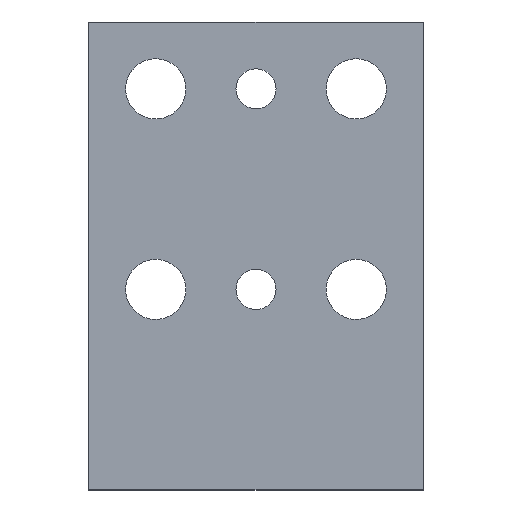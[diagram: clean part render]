
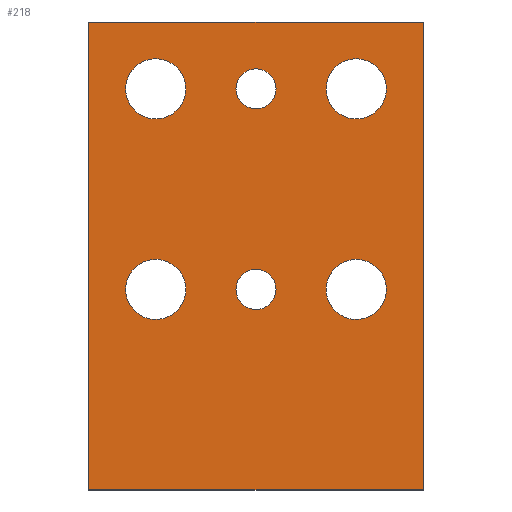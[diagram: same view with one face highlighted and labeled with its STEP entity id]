
A CAD part, front view. The second image highlights one B-rep face of the part: STEP entity #218.
In plain terms, the highlighted planar face has unit normal (0, -1, 0).
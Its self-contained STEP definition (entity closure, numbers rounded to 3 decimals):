
#218=ADVANCED_FACE('Pad.1',(#492,#493,#494,#495,#496,#497,#498),#499,.F.);
#492=FACE_OUTER_BOUND('',#819,.T.);
#493=FACE_BOUND('',#820,.T.);
#494=FACE_BOUND('',#821,.T.);
#495=FACE_BOUND('',#822,.T.);
#496=FACE_BOUND('',#823,.T.);
#497=FACE_BOUND('',#824,.T.);
#498=FACE_BOUND('',#825,.T.);
#499=PLANE('',#826);
#819=EDGE_LOOP('',(#1464,#1465,#1466,#1467));
#820=EDGE_LOOP('',(#1468,#1469,#1470,#1471));
#821=EDGE_LOOP('',(#1472,#1473,#1474,#1475));
#822=EDGE_LOOP('',(#1476,#1477,#1478,#1479));
#823=EDGE_LOOP('',(#1480,#1481,#1482,#1483));
#824=EDGE_LOOP('',(#1484,#1485,#1486,#1487));
#825=EDGE_LOOP('',(#1488,#1489,#1490,#1491));
#826=AXIS2_PLACEMENT_3D('',#1492,#1493,#1494);
#1464=ORIENTED_EDGE('',*,*,#2172,.F.);
#1465=ORIENTED_EDGE('',*,*,#2134,.T.);
#1466=ORIENTED_EDGE('',*,*,#2138,.T.);
#1467=ORIENTED_EDGE('',*,*,#2109,.F.);
#1468=ORIENTED_EDGE('',*,*,#2080,.T.);
#1469=ORIENTED_EDGE('',*,*,#2174,.T.);
#1470=ORIENTED_EDGE('',*,*,#2175,.T.);
#1471=ORIENTED_EDGE('',*,*,#2077,.T.);
#1472=ORIENTED_EDGE('',*,*,#2009,.T.);
#1473=ORIENTED_EDGE('',*,*,#2176,.T.);
#1474=ORIENTED_EDGE('',*,*,#2177,.T.);
#1475=ORIENTED_EDGE('',*,*,#2006,.T.);
#1476=ORIENTED_EDGE('',*,*,#2089,.T.);
#1477=ORIENTED_EDGE('',*,*,#2178,.T.);
#1478=ORIENTED_EDGE('',*,*,#2179,.T.);
#1479=ORIENTED_EDGE('',*,*,#2086,.T.);
#1480=ORIENTED_EDGE('',*,*,#2049,.T.);
#1481=ORIENTED_EDGE('',*,*,#2180,.T.);
#1482=ORIENTED_EDGE('',*,*,#2181,.T.);
#1483=ORIENTED_EDGE('',*,*,#2046,.T.);
#1484=ORIENTED_EDGE('',*,*,#2067,.T.);
#1485=ORIENTED_EDGE('',*,*,#2182,.T.);
#1486=ORIENTED_EDGE('',*,*,#2183,.T.);
#1487=ORIENTED_EDGE('',*,*,#2064,.T.);
#1488=ORIENTED_EDGE('',*,*,#2018,.T.);
#1489=ORIENTED_EDGE('',*,*,#2184,.T.);
#1490=ORIENTED_EDGE('',*,*,#2185,.T.);
#1491=ORIENTED_EDGE('',*,*,#2015,.T.);
#1492=CARTESIAN_POINT('',(0.0,0.0,0.0));
#1493=DIRECTION('',(0.0,1.0,0.0));
#1494=DIRECTION('',(0.0,0.0,1.0));
#2006=EDGE_CURVE('',#2435,#2439,#2441,.T.);
#2009=EDGE_CURVE('',#2439,#2443,#2446,.T.);
#2015=EDGE_CURVE('',#2450,#2454,#2456,.T.);
#2018=EDGE_CURVE('',#2454,#2458,#2461,.T.);
#2046=EDGE_CURVE('',#2501,#2505,#2507,.T.);
#2049=EDGE_CURVE('',#2505,#2509,#2512,.T.);
#2064=EDGE_CURVE('',#2531,#2535,#2537,.T.);
#2067=EDGE_CURVE('',#2535,#2539,#2542,.T.);
#2077=EDGE_CURVE('',#2552,#2556,#2558,.T.);
#2080=EDGE_CURVE('',#2556,#2560,#2563,.T.);
#2086=EDGE_CURVE('',#2567,#2571,#2573,.T.);
#2089=EDGE_CURVE('',#2571,#2575,#2578,.T.);
#2109=EDGE_CURVE('',#2610,#2612,#2613,.F.);
#2134=EDGE_CURVE('',#2651,#2649,#2652,.F.);
#2138=EDGE_CURVE('',#2649,#2612,#2657,.T.);
#2172=EDGE_CURVE('',#2651,#2610,#2703,.T.);
#2174=EDGE_CURVE('',#2560,#2705,#2706,.T.);
#2175=EDGE_CURVE('',#2705,#2552,#2707,.T.);
#2176=EDGE_CURVE('',#2443,#2708,#2709,.T.);
#2177=EDGE_CURVE('',#2708,#2435,#2710,.T.);
#2178=EDGE_CURVE('',#2575,#2711,#2712,.T.);
#2179=EDGE_CURVE('',#2711,#2567,#2713,.T.);
#2180=EDGE_CURVE('',#2509,#2714,#2715,.T.);
#2181=EDGE_CURVE('',#2714,#2501,#2716,.T.);
#2182=EDGE_CURVE('',#2539,#2717,#2718,.T.);
#2183=EDGE_CURVE('',#2717,#2531,#2719,.T.);
#2184=EDGE_CURVE('',#2458,#2720,#2721,.T.);
#2185=EDGE_CURVE('',#2720,#2450,#2722,.T.);
#2435=VERTEX_POINT('',#3056);
#2439=VERTEX_POINT('',#3061);
#2441=CIRCLE('',#3064,3.0);
#2443=VERTEX_POINT('',#3066);
#2446=CIRCLE('',#3070,3.0);
#2450=VERTEX_POINT('',#3074);
#2454=VERTEX_POINT('',#3079);
#2456=CIRCLE('',#3082,4.5);
#2458=VERTEX_POINT('',#3084);
#2461=CIRCLE('',#3088,4.5);
#2501=VERTEX_POINT('',#3135);
#2505=VERTEX_POINT('',#3140);
#2507=CIRCLE('',#3143,4.5);
#2509=VERTEX_POINT('',#3145);
#2512=CIRCLE('',#3149,4.5);
#2531=VERTEX_POINT('',#3171);
#2535=VERTEX_POINT('',#3176);
#2537=CIRCLE('',#3179,4.5);
#2539=VERTEX_POINT('',#3181);
#2542=CIRCLE('',#3185,4.5);
#2552=VERTEX_POINT('',#3196);
#2556=VERTEX_POINT('',#3201);
#2558=CIRCLE('',#3204,3.0);
#2560=VERTEX_POINT('',#3206);
#2563=CIRCLE('',#3210,3.0);
#2567=VERTEX_POINT('',#3214);
#2571=VERTEX_POINT('',#3219);
#2573=CIRCLE('',#3222,4.5);
#2575=VERTEX_POINT('',#3224);
#2578=CIRCLE('',#3228,4.5);
#2610=VERTEX_POINT('',#3268);
#2612=VERTEX_POINT('',#3271);
#2613=LINE('',#3272,#3273);
#2649=VERTEX_POINT('',#3315);
#2651=VERTEX_POINT('',#3318);
#2652=LINE('',#3319,#3320);
#2657=LINE('',#3327,#3328);
#2703=LINE('',#3418,#3419);
#2705=VERTEX_POINT('',#3421);
#2706=CIRCLE('',#3422,3.0);
#2707=CIRCLE('',#3423,3.0);
#2708=VERTEX_POINT('',#3424);
#2709=CIRCLE('',#3425,3.0);
#2710=CIRCLE('',#3426,3.0);
#2711=VERTEX_POINT('',#3427);
#2712=CIRCLE('',#3428,4.5);
#2713=CIRCLE('',#3429,4.5);
#2714=VERTEX_POINT('',#3430);
#2715=CIRCLE('',#3431,4.5);
#2716=CIRCLE('',#3432,4.5);
#2717=VERTEX_POINT('',#3433);
#2718=CIRCLE('',#3434,4.5);
#2719=CIRCLE('',#3435,4.5);
#2720=VERTEX_POINT('',#3436);
#2721=CIRCLE('',#3437,4.5);
#2722=CIRCLE('',#3438,4.5);
#3056=CARTESIAN_POINT('',(3.0,0.0,30.0));
#3061=CARTESIAN_POINT('',(-2.633,0.0,28.562));
#3064=AXIS2_PLACEMENT_3D('',#3723,#3724,#3725);
#3066=CARTESIAN_POINT('',(-3.0,0.0,30.0));
#3070=AXIS2_PLACEMENT_3D('',#3727,#3728,#3729);
#3074=CARTESIAN_POINT('',(-10.5,0.0,30.0));
#3079=CARTESIAN_POINT('',(-18.949,0.0,27.843));
#3082=AXIS2_PLACEMENT_3D('',#3738,#3739,#3740);
#3084=CARTESIAN_POINT('',(-19.5,0.0,30.0));
#3088=AXIS2_PLACEMENT_3D('',#3742,#3743,#3744);
#3135=CARTESIAN_POINT('',(-10.5,0.0,60.0));
#3140=CARTESIAN_POINT('',(-18.949,0.0,57.843));
#3143=AXIS2_PLACEMENT_3D('',#3790,#3791,#3792);
#3145=CARTESIAN_POINT('',(-19.5,0.0,60.0));
#3149=AXIS2_PLACEMENT_3D('',#3794,#3795,#3796);
#3171=CARTESIAN_POINT('',(19.5,0.0,30.0));
#3176=CARTESIAN_POINT('',(11.051,0.0,27.843));
#3179=AXIS2_PLACEMENT_3D('',#3820,#3821,#3822);
#3181=CARTESIAN_POINT('',(10.5,0.0,30.0));
#3185=AXIS2_PLACEMENT_3D('',#3824,#3825,#3826);
#3196=CARTESIAN_POINT('',(3.0,0.0,60.0));
#3201=CARTESIAN_POINT('',(-2.633,0.0,58.562));
#3204=AXIS2_PLACEMENT_3D('',#3842,#3843,#3844);
#3206=CARTESIAN_POINT('',(-3.0,0.0,60.0));
#3210=AXIS2_PLACEMENT_3D('',#3846,#3847,#3848);
#3214=CARTESIAN_POINT('',(19.5,0.0,60.0));
#3219=CARTESIAN_POINT('',(11.051,0.0,57.843));
#3222=AXIS2_PLACEMENT_3D('',#3857,#3858,#3859);
#3224=CARTESIAN_POINT('',(10.5,0.0,60.0));
#3228=AXIS2_PLACEMENT_3D('',#3861,#3862,#3863);
#3268=CARTESIAN_POINT('',(25.0,0.,70.0));
#3271=CARTESIAN_POINT('',(25.0,0.0,0.0));
#3272=CARTESIAN_POINT('',(25.0,0.0,35.0));
#3273=VECTOR('',#3891,1.0);
#3315=CARTESIAN_POINT('',(-25.0,0.0,0.0));
#3318=CARTESIAN_POINT('',(-25.0,0.,70.0));
#3319=CARTESIAN_POINT('',(-25.0,0.0,35.0));
#3320=VECTOR('',#3944,1.0);
#3327=CARTESIAN_POINT('',(0.0,0.0,0.0));
#3328=VECTOR('',#3947,1.0);
#3418=CARTESIAN_POINT('',(0.0,0.,70.0));
#3419=VECTOR('',#4024,1.0);
#3421=CARTESIAN_POINT('',(2.633,0.0,61.438));
#3422=AXIS2_PLACEMENT_3D('',#4025,#4026,#4027);
#3423=AXIS2_PLACEMENT_3D('',#4028,#4029,#4030);
#3424=CARTESIAN_POINT('',(2.633,0.0,31.438));
#3425=AXIS2_PLACEMENT_3D('',#4031,#4032,#4033);
#3426=AXIS2_PLACEMENT_3D('',#4034,#4035,#4036);
#3427=CARTESIAN_POINT('',(18.949,0.0,62.157));
#3428=AXIS2_PLACEMENT_3D('',#4037,#4038,#4039);
#3429=AXIS2_PLACEMENT_3D('',#4040,#4041,#4042);
#3430=CARTESIAN_POINT('',(-11.051,0.0,62.157));
#3431=AXIS2_PLACEMENT_3D('',#4043,#4044,#4045);
#3432=AXIS2_PLACEMENT_3D('',#4046,#4047,#4048);
#3433=CARTESIAN_POINT('',(18.949,0.0,32.157));
#3434=AXIS2_PLACEMENT_3D('',#4049,#4050,#4051);
#3435=AXIS2_PLACEMENT_3D('',#4052,#4053,#4054);
#3436=CARTESIAN_POINT('',(-11.051,0.0,32.157));
#3437=AXIS2_PLACEMENT_3D('',#4055,#4056,#4057);
#3438=AXIS2_PLACEMENT_3D('',#4058,#4059,#4060);
#3723=CARTESIAN_POINT('',(0.,0.0,30.0));
#3724=DIRECTION('',(0.0,1.0,0.0));
#3725=DIRECTION('',(0.0,0.0,1.0));
#3727=CARTESIAN_POINT('',(0.,0.0,30.0));
#3728=DIRECTION('',(0.0,1.0,0.0));
#3729=DIRECTION('',(0.0,0.0,1.0));
#3738=CARTESIAN_POINT('',(-15.0,0.0,30.0));
#3739=DIRECTION('',(0.0,1.0,0.0));
#3740=DIRECTION('',(0.0,0.0,1.0));
#3742=CARTESIAN_POINT('',(-15.0,0.0,30.0));
#3743=DIRECTION('',(0.0,1.0,0.0));
#3744=DIRECTION('',(0.0,0.0,1.0));
#3790=CARTESIAN_POINT('',(-15.0,0.0,60.0));
#3791=DIRECTION('',(0.0,1.0,0.0));
#3792=DIRECTION('',(0.0,0.0,1.0));
#3794=CARTESIAN_POINT('',(-15.0,0.0,60.0));
#3795=DIRECTION('',(0.0,1.0,0.0));
#3796=DIRECTION('',(0.0,0.0,1.0));
#3820=CARTESIAN_POINT('',(15.0,0.0,30.0));
#3821=DIRECTION('',(0.0,1.0,0.0));
#3822=DIRECTION('',(0.0,0.0,1.0));
#3824=CARTESIAN_POINT('',(15.0,0.0,30.0));
#3825=DIRECTION('',(0.0,1.0,0.0));
#3826=DIRECTION('',(0.0,0.0,1.0));
#3842=CARTESIAN_POINT('',(0.,0.0,60.0));
#3843=DIRECTION('',(0.0,1.0,0.0));
#3844=DIRECTION('',(0.0,0.0,1.0));
#3846=CARTESIAN_POINT('',(0.,0.0,60.0));
#3847=DIRECTION('',(0.0,1.0,0.0));
#3848=DIRECTION('',(0.0,0.0,1.0));
#3857=CARTESIAN_POINT('',(15.0,0.0,60.0));
#3858=DIRECTION('',(0.0,1.0,0.0));
#3859=DIRECTION('',(0.0,0.0,1.0));
#3861=CARTESIAN_POINT('',(15.0,0.0,60.0));
#3862=DIRECTION('',(0.0,1.0,0.0));
#3863=DIRECTION('',(0.0,0.0,1.0));
#3891=DIRECTION('',(0.0,0.0,1.0));
#3944=DIRECTION('',(0.0,0.0,1.0));
#3947=DIRECTION('',(1.0,0.0,0.0));
#4024=DIRECTION('',(1.0,0.0,0.0));
#4025=CARTESIAN_POINT('',(0.,0.0,60.0));
#4026=DIRECTION('',(0.0,1.0,0.0));
#4027=DIRECTION('',(0.0,0.0,1.0));
#4028=CARTESIAN_POINT('',(0.,0.0,60.0));
#4029=DIRECTION('',(0.0,1.0,0.0));
#4030=DIRECTION('',(0.0,0.0,1.0));
#4031=CARTESIAN_POINT('',(0.,0.0,30.0));
#4032=DIRECTION('',(0.0,1.0,0.0));
#4033=DIRECTION('',(0.0,0.0,1.0));
#4034=CARTESIAN_POINT('',(0.,0.0,30.0));
#4035=DIRECTION('',(0.0,1.0,0.0));
#4036=DIRECTION('',(0.0,0.0,1.0));
#4037=CARTESIAN_POINT('',(15.0,0.0,60.0));
#4038=DIRECTION('',(0.0,1.0,0.0));
#4039=DIRECTION('',(0.0,0.0,1.0));
#4040=CARTESIAN_POINT('',(15.0,0.0,60.0));
#4041=DIRECTION('',(0.0,1.0,0.0));
#4042=DIRECTION('',(0.0,0.0,1.0));
#4043=CARTESIAN_POINT('',(-15.0,0.0,60.0));
#4044=DIRECTION('',(0.0,1.0,0.0));
#4045=DIRECTION('',(0.0,0.0,1.0));
#4046=CARTESIAN_POINT('',(-15.0,0.0,60.0));
#4047=DIRECTION('',(0.0,1.0,0.0));
#4048=DIRECTION('',(0.0,0.0,1.0));
#4049=CARTESIAN_POINT('',(15.0,0.0,30.0));
#4050=DIRECTION('',(0.0,1.0,0.0));
#4051=DIRECTION('',(0.0,0.0,1.0));
#4052=CARTESIAN_POINT('',(15.0,0.0,30.0));
#4053=DIRECTION('',(0.0,1.0,0.0));
#4054=DIRECTION('',(0.0,0.0,1.0));
#4055=CARTESIAN_POINT('',(-15.0,0.0,30.0));
#4056=DIRECTION('',(0.0,1.0,0.0));
#4057=DIRECTION('',(0.0,0.0,1.0));
#4058=CARTESIAN_POINT('',(-15.0,0.0,30.0));
#4059=DIRECTION('',(0.0,1.0,0.0));
#4060=DIRECTION('',(0.0,0.0,1.0));
